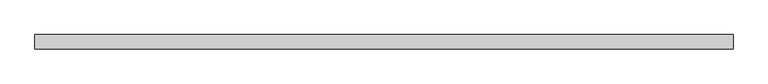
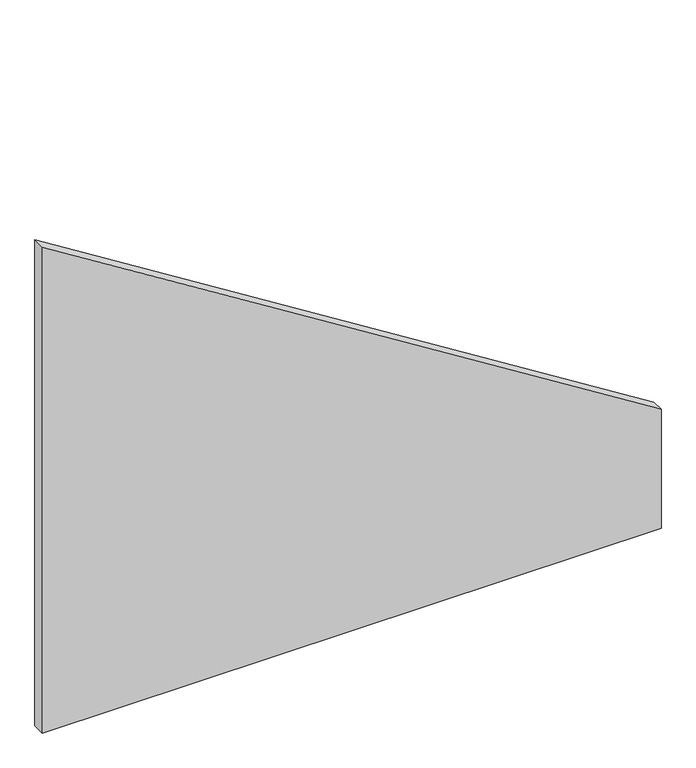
"""IFC4 building model written with IfcOpenShell, lengths in millimetres: plate geometry, Системная панель : С остеклением."""

from ifc_helpers import new_model, si_unit, frame, origin, place, context, project, spatial, polyline, outline, extrude, source, transform, mapped, element, save


def plate_1a7b1c59(model_context):
    return source(origin(), model_context, "Body", "SweptSolid", [
        extrude(outline(polyline([(0.0, -609.375), (0.0, 609.375), (247.3433781, 609.375), (1011.9583971, -609.375), (0.0, -609.375)])), frame((0.0, 24.5, 0.0), z_axis=(0.0, 1.0, 0.0), x_axis=(0.0, 0.0, 1.0)), (0.0, 0.0, 1.0), 25.0),
    ])


if __name__ == "__main__":
    model = new_model("IFC4")
    model_context = context("Model", 3, world=origin())
    ifc_project = project(units=[si_unit("LENGTHUNIT", "METRE", prefix="MILLI")], contexts=[model_context])
    site = spatial("IfcSite", under=ifc_project)
    building = spatial("IfcBuilding", under=site)
    placement = place(None, origin())
    plate_shape = plate_1a7b1c59(model_context)
    element("IfcPlate", 1, ObjectType="Системная панель : С остеклением", at=placement, inside=building, context=model_context, shape_type="MappedRepresentation", body=[
        mapped(plate_shape, transform((0.0, 0.0, 0.0), x_axis=(1.0, 0.0, 0.0), y_axis=(0.0, 1.0, 0.0), z_axis=(0.0, 0.0, 1.0))),
    ])
    save(model, "model.ifc")
